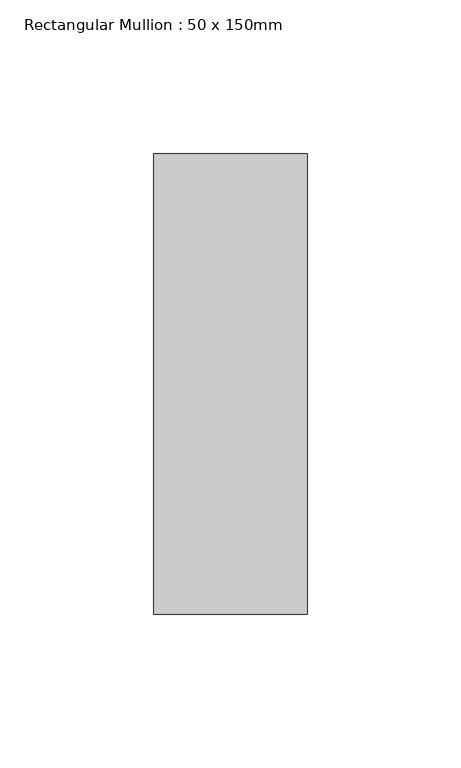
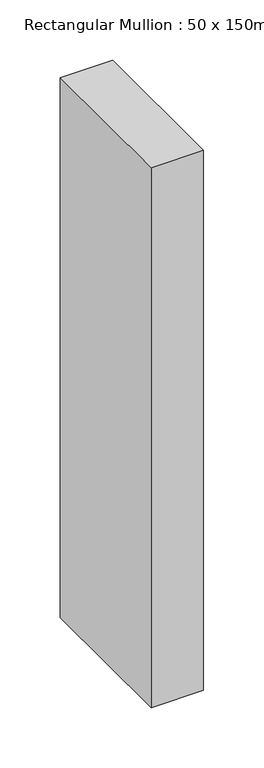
"""IFC4 building model written with IfcOpenShell, lengths in millimetres: member geometry, Rectangular Mullion : 50 x 150mm."""

from ifc_helpers import new_model, si_unit, frame, origin, place, context, project, spatial, polyline, outline, extrude, source, transform, mapped, element, save


def rectangular_mullion_50_x_150mm_2f9a3acf(model_context):
    return source(origin(), model_context, "Body", "SweptSolid", [
        extrude(outline(polyline([(0.0, 75.0), (0.0, -75.0), (-50.0, -75.0), (-50.0, 75.0), (0.0, 75.0)])), frame((0.0, 0.0, -545.183893), z_axis=(0.0, 0.0, 1.0), x_axis=(1.0, 0.0, 0.0)), (0.0, 0.0, 1.0), 545.183893),
    ])


if __name__ == "__main__":
    model = new_model("IFC4")
    model_context = context("Model", 3, world=origin())
    ifc_project = project(units=[si_unit("LENGTHUNIT", "METRE", prefix="MILLI")], contexts=[model_context])
    site = spatial("IfcSite", under=ifc_project)
    building = spatial("IfcBuilding", under=site)
    placement = place(None, origin())
    rectangular_mullion_50_x_150mm_shape = rectangular_mullion_50_x_150mm_2f9a3acf(model_context)
    element("IfcMember", 1, ObjectType="Rectangular Mullion : 50 x 150mm", at=placement, inside=building, context=model_context, shape_type="MappedRepresentation", body=[
        mapped(rectangular_mullion_50_x_150mm_shape, transform((0.0, 0.0, 0.0), x_axis=(1.0, 0.0, 0.0), y_axis=(0.0, 1.0, 0.0), z_axis=(0.0, 0.0, 1.0))),
    ])
    save(model, "model.ifc")
